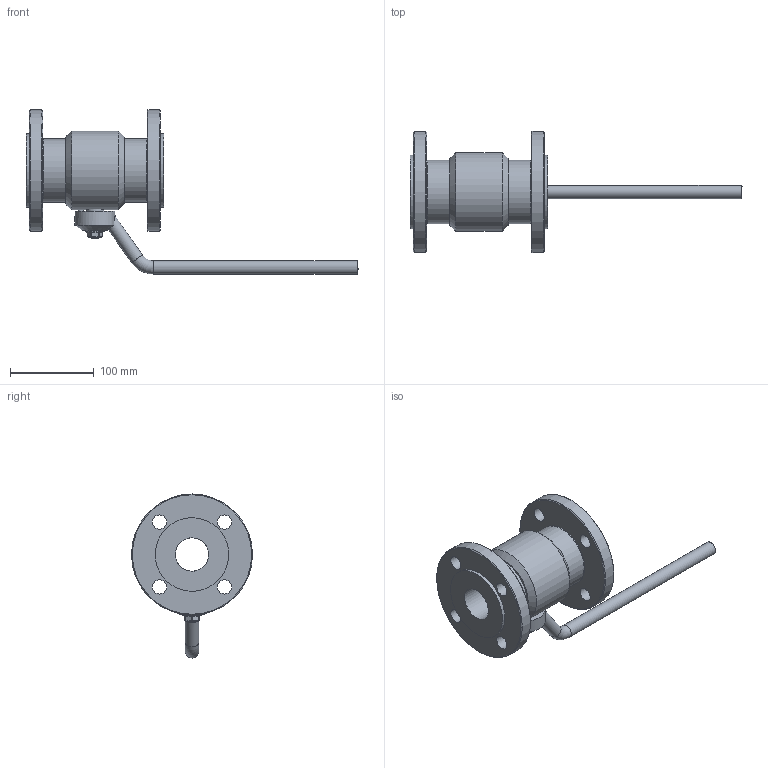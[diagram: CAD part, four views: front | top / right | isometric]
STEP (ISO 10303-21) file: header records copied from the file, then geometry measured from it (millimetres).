
FILE_DESCRIPTION(('STEP AP203'), '1');
FILE_NAME('ZARDP 040.016.21.P.stp', '2013-12-06T06:54:20', ('User'), ('Computer'), 'ASCON STEP Converter 1.3', 'Kompas 3D', '');
FILE_SCHEMA(('CONFIG_CONTROL_DESIGN','SUPPORT_RESOURCE_SCHEMA'));
Length unit declared in the file: millimetre
Products named in the file (1): 97
Bounding box: 397.51 x 145 x 196.5 mm (x, y, z)
Volume: 1074940.8 mm3; surface area: 164952.5 mm2
Topology: 1 solids, 7 shells, 166 faces, 363 edges, 228 vertices
Faces by surface type: plane 77, cylinder 58, cone 21, torus 10
Full cylindrical faces by diameter (mm): 6 x2, 10 x2, 16 x3, 16.1 x1, 17 x8, 21.8 x1, 22 x2, 24.3 x1, 24.5 x1, 40 x2, 48 x1, 68.4 x1, 76 x2, 88 x2, 94 x1, 145 x2
Entity records: 5725 total; most frequent: CARTESIAN_POINT 1900, DIRECTION 813, ORIENTED_EDGE 726, EDGE_CURVE 363, AXIS2_PLACEMENT_3D 324, VERTEX_POINT 228, EDGE_LOOP 207, ADVANCED_FACE 166
